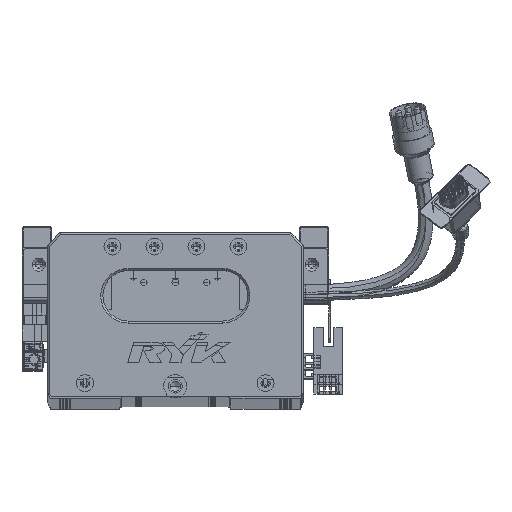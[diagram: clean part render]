
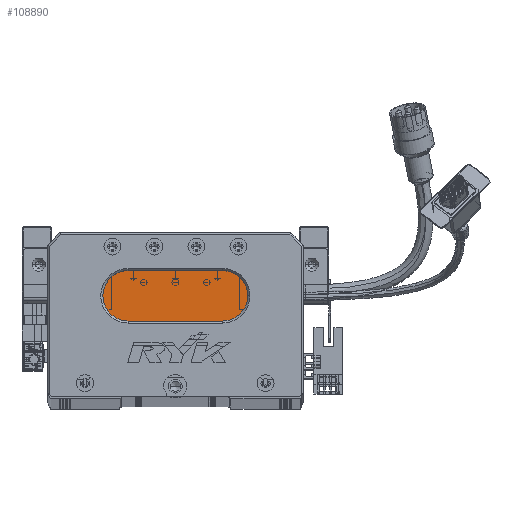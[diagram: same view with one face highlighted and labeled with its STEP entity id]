
A CAD part, top view. The second image highlights one B-rep face of the part: STEP entity #108890.
In plain terms, the highlighted planar face has unit normal (0, 0, 1) as drawn and (0, 0, -1) by its records, which use the part's own axes.
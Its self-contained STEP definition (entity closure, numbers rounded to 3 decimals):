
#3716 = CARTESIAN_POINT ( 'NONE',  ( 83.5, 36., 13. ) ) ;
#5134 = DIRECTION ( 'NONE',  ( -1., 0., 0. ) ) ;
#6187 = EDGE_CURVE ( 'NONE', #104220, #15602, #106535, .T. ) ;
#6604 = CIRCLE ( 'NONE', #26156, 12. ) ;
#8169 = DIRECTION ( 'NONE',  ( 0., 0., -1. ) ) ;
#9303 = CIRCLE ( 'NONE', #42119, 12. ) ;
#11099 = CARTESIAN_POINT ( 'NONE',  ( 38.5, 48., 13. ) ) ;
#12667 = ORIENTED_EDGE ( 'NONE', *, *, #69362, .T. ) ;
#14528 = CARTESIAN_POINT ( 'NONE',  ( 38.5, 60., 13. ) ) ;
#15602 = VERTEX_POINT ( 'NONE', #117589 ) ;
#16515 = EDGE_LOOP ( 'NONE', ( #12667, #73403, #37929, #26742, #98754 ) ) ;
#17074 = AXIS2_PLACEMENT_3D ( 'NONE', #67946, #18154, #96481 ) ;
#18154 = DIRECTION ( 'NONE',  ( 0., 0., -1. ) ) ;
#21770 = CARTESIAN_POINT ( 'NONE',  ( 83.5, 36., 13. ) ) ;
#26156 = AXIS2_PLACEMENT_3D ( 'NONE', #11099, #89845, #88590 ) ;
#26742 = ORIENTED_EDGE ( 'NONE', *, *, #44593, .T. ) ;
#37929 = ORIENTED_EDGE ( 'NONE', *, *, #86874, .T. ) ;
#37985 = CARTESIAN_POINT ( 'NONE',  ( 83.5, 60., 13. ) ) ;
#40000 = VERTEX_POINT ( 'NONE', #50490 ) ;
#40562 = EDGE_CURVE ( 'NONE', #125491, #53621, #66458, .T. ) ;
#42119 = AXIS2_PLACEMENT_3D ( 'NONE', #60750, #70933, #90511 ) ;
#43659 = VECTOR ( 'NONE', #106499, 1000. ) ;
#44593 = EDGE_CURVE ( 'NONE', #40000, #125491, #9303, .T. ) ;
#49077 = CARTESIAN_POINT ( 'NONE',  ( 83.5, 60., 13. ) ) ;
#50490 = CARTESIAN_POINT ( 'NONE',  ( 26.5, 48., 13. ) ) ;
#53621 = VERTEX_POINT ( 'NONE', #37985 ) ;
#60750 = CARTESIAN_POINT ( 'NONE',  ( 38.5, 48., 13. ) ) ;
#61760 = CIRCLE ( 'NONE', #17074, 12. ) ;
#66458 = LINE ( 'NONE', #49077, #43659 ) ;
#67946 = CARTESIAN_POINT ( 'NONE',  ( 83.5, 48., 13. ) ) ;
#69362 = EDGE_CURVE ( 'NONE', #53621, #104220, #61760, .T. ) ;
#70933 = DIRECTION ( 'NONE',  ( 0., 0., -1. ) ) ;
#71672 = FACE_OUTER_BOUND ( 'NONE', #16515, .T. ) ;
#72953 = VECTOR ( 'NONE', #5134, 1000. ) ;
#73403 = ORIENTED_EDGE ( 'NONE', *, *, #6187, .T. ) ;
#74975 = CARTESIAN_POINT ( 'NONE',  ( 83.5, 48., 13. ) ) ;
#86874 = EDGE_CURVE ( 'NONE', #15602, #40000, #6604, .T. ) ;
#88590 = DIRECTION ( 'NONE',  ( -1., 0., 0. ) ) ;
#89845 = DIRECTION ( 'NONE',  ( 0., 0., -1. ) ) ;
#90511 = DIRECTION ( 'NONE',  ( -1., 0., 0. ) ) ;
#96481 = DIRECTION ( 'NONE',  ( -1., 0., 0. ) ) ;
#98754 = ORIENTED_EDGE ( 'NONE', *, *, #40562, .T. ) ;
#104220 = VERTEX_POINT ( 'NONE', #3716 ) ;
#106499 = DIRECTION ( 'NONE',  ( 1., 0., 0. ) ) ;
#106535 = LINE ( 'NONE', #21770, #72953 ) ;
#108890 = ADVANCED_FACE ( 'NONE', ( #71672 ), #123553, .T. ) ;
#115430 = DIRECTION ( 'NONE',  ( -1., 0., 0. ) ) ;
#116027 = AXIS2_PLACEMENT_3D ( 'NONE', #74975, #8169, #115430 ) ;
#117589 = CARTESIAN_POINT ( 'NONE',  ( 38.5, 36., 13. ) ) ;
#123553 = PLANE ( 'NONE',  #116027 ) ;
#125491 = VERTEX_POINT ( 'NONE', #14528 ) ;
